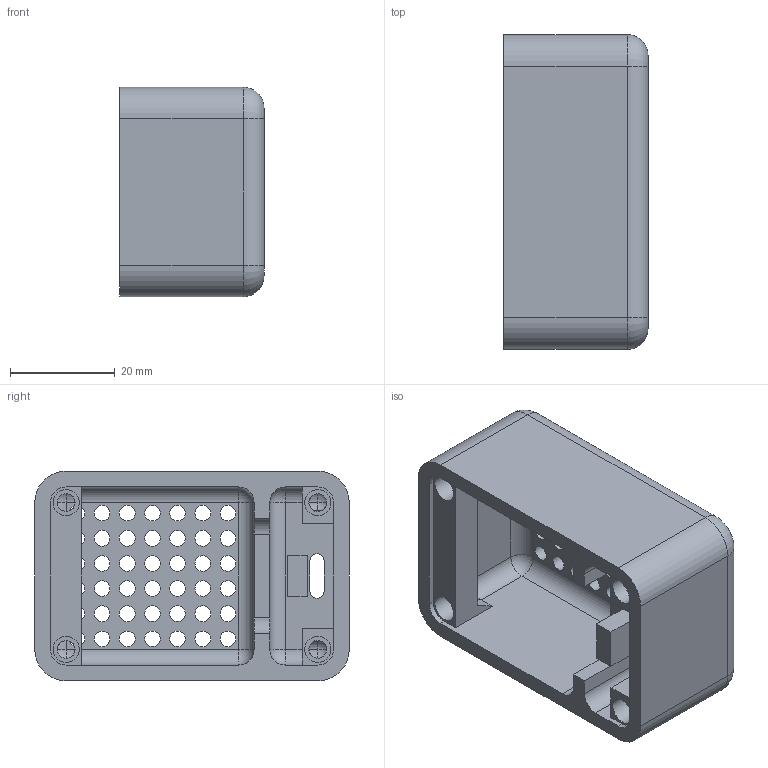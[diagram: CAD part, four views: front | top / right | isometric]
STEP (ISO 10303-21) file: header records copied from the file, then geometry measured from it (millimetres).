
FILE_DESCRIPTION(/* description */ ('STEP AP242 Edition 2','CAx-IF Rec.Pracs.---Representation and Presentation of Product Manufacturing Information (PMI)---4.0---2014-10-13','CAx-IF Rec.Pracs.---3D Tessellated Geometry---0.4---2014-09-14','2;1','CAx-IF Rec.Pracs.---User Defined Attributes---1.5---2016-08-15'),/* implementation_level */ '2;1');
FILE_NAME(/* name */ 'Part Studio 1 - Part 85',/* time_stamp */ '2026-05-01T09:14:21Z',/* author */ (''),/* organization */ (''),/* preprocessor_version */ 'ST-DEVELOPER v20',/* originating_system */ 'ONSHAPE BY PTC INC, 1.214',/* authorisation */ ' ');
FILE_SCHEMA (('AP242_MANAGED_MODEL_BASED_3D_ENGINEERING_MIM_LF { 1 0 10303 442 3 1 4 }'));
Length unit declared in the file: metre
Products named in the file (1): Part 85
Bounding box: 27.5 x 60 x 40 mm (x, y, z)
Volume: 23146.4 mm3; surface area: 16646.1 mm2
Topology: 1 solids, 1 shells, 168 faces, 492 edges, 320 vertices
Faces by surface type: cylinder 93, plane 53, sphere 8, torus 8, cone 4, bspline 2
Full cylindrical faces by diameter (mm): 3 x42, 3.4 x4, 5 x4
Entity records: 5186 total; most frequent: CARTESIAN_POINT 919, DIRECTION 910, ORIENTED_EDGE 776, EDGE_CURVE 388, AXIS2_PLACEMENT_3D 367, EDGE_LOOP 314, FACE_BOUND 314, VERTEX_POINT 274
